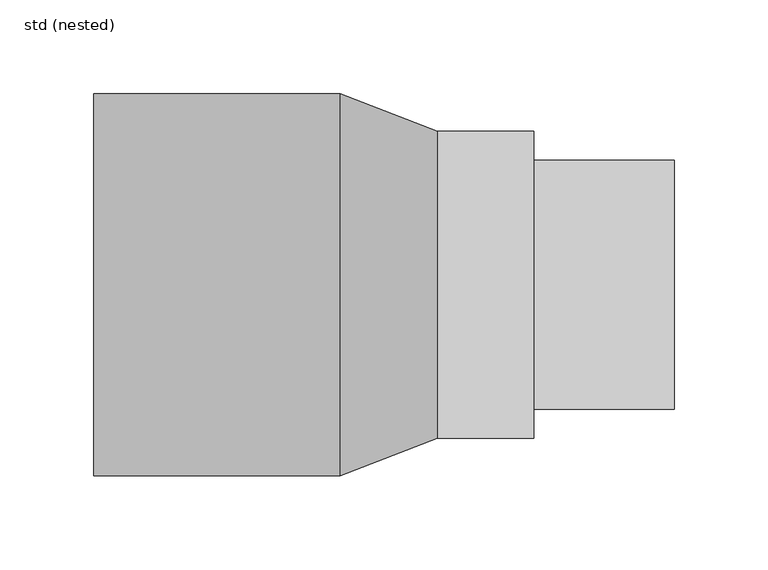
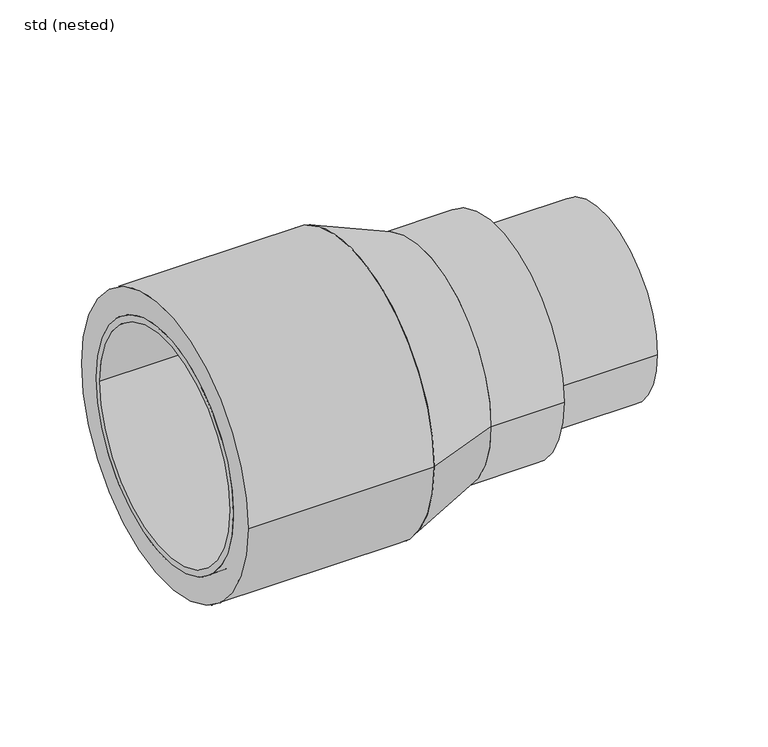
"""IFC4 building model written with IfcOpenShell, lengths in millimetres: pipe fitting geometry, ZZZ_do not use_PIF_ST_WPB_GM-X compound pipe optimiser_ACO : std (nested)."""

from ifc_helpers import new_model, si_unit, point, frame, origin, origin_2d, place, context, project, spatial, polyline, circle_curve, trimmed, segment, composite_curve, outline, extrude, source, transform, mapped, element, save
from ifc_brep_helpers import plane_surface, cylinder_surface, revolved_surface, advanced_brep


def std_nested_1c860d80(model_context):
    return source(origin(), model_context, "Body", "SolidModel", [
        advanced_brep(
        [(-70.5, 90.5, 0.0), (-35.0, 90.5, 0.0), (-35.0, -90.5, 0.0), (-70.5, -90.5, 0.0), (-80.0, -84.0, 0.0), (-80.0, 84.0, 0.0), (-80.0, 79.5, 0.0), (-80.0, -79.5, 0.0), (0.0, -84.0, 0.0), (0.0, 84.0, 0.0), (0.0, -79.5, 0.0), (0.0, 79.5, 0.0), (-35.0, -84.0, 0.0), (-35.0, 84.0, 0.0), (-70.5, 84.0, 0.0), (-70.5, -84.0, 0.0)],
        [
            (0, 1),
            (1, 2, circle_curve(frame((-35.0, 0.0, 0.0), z_axis=(-1.0, 0.0, 0.0), x_axis=(0.0, 1.0, 0.0)), 90.5)),
            (2, 3),
            (3, 0, circle_curve(frame((-70.5, 0.0, 0.0), z_axis=(1.0, 0.0, 0.0), x_axis=(0.0, 1.0, 0.0)), 90.5)),
            (2, 1, circle_curve(frame((-35.0, 0.0, 0.0), z_axis=(-1.0, 0.0, 0.0), x_axis=(0.0, 1.0, 0.0)), 90.5)),
            (0, 3, circle_curve(frame((-70.5, 0.0, 0.0), z_axis=(1.0, 0.0, 0.0), x_axis=(0.0, 1.0, 0.0)), 90.5)),
            (4, 5, circle_curve(frame((-80.0, 0.0, 0.0), z_axis=(-1.0, 0.0, 0.0), x_axis=(0.0, 1.0, 0.0)), 84.0)),
            (5, 4, circle_curve(frame((-80.0, 0.0, 0.0), z_axis=(-1.0, 0.0, 0.0), x_axis=(0.0, 1.0, 0.0)), 84.0)),
            (6, 7, circle_curve(frame((-80.0, 0.0, 0.0), z_axis=(1.0, 0.0, 0.0), x_axis=(0.0, 1.0, 0.0)), 79.5)),
            (7, 6, circle_curve(frame((-80.0, 0.0, 0.0), z_axis=(1.0, 0.0, 0.0), x_axis=(0.0, 1.0, 0.0)), 79.5)),
            (8, 9, circle_curve(frame((0.0, 0.0, 0.0), z_axis=(1.0, 0.0, 0.0), x_axis=(0.0, 1.0, 0.0)), 84.0)),
            (9, 8, circle_curve(frame((0.0, 0.0, 0.0), z_axis=(1.0, 0.0, 0.0), x_axis=(0.0, 1.0, 0.0)), 84.0)),
            (10, 11, circle_curve(frame((0.0, 0.0, 0.0), z_axis=(-1.0, 0.0, 0.0), x_axis=(0.0, 1.0, 0.0)), 79.5)),
            (11, 10, circle_curve(frame((0.0, 0.0, 0.0), z_axis=(-1.0, 0.0, 0.0), x_axis=(0.0, 1.0, 0.0)), 79.5)),
            (8, 12),
            (12, 13, circle_curve(frame((-35.0, 0.0, 0.0), z_axis=(1.0, 0.0, 0.0), x_axis=(0.0, 1.0, 0.0)), 84.0)),
            (13, 9),
            (5, 14),
            (14, 15, circle_curve(frame((-70.5, 0.0, 0.0), z_axis=(-1.0, 0.0, 0.0), x_axis=(0.0, 1.0, 0.0)), 84.0)),
            (15, 4),
            (15, 14, circle_curve(frame((-70.5, 0.0, 0.0), z_axis=(-1.0, 0.0, 0.0), x_axis=(0.0, 1.0, 0.0)), 84.0)),
            (13, 12, circle_curve(frame((-35.0, 0.0, 0.0), z_axis=(1.0, 0.0, 0.0), x_axis=(0.0, 1.0, 0.0)), 84.0)),
            (7, 10),
            (11, 6),
        ],
        [
            cylinder_surface(frame((-35.0, 0.0, 0.0), z_axis=(-1.0, 0.0, 0.0), x_axis=(0.0, 1.0, 0.0)), 90.5),
            plane_surface(frame((-80.0, 84.0, 0.0), z_axis=(-1.0, 0.0, 0.0), x_axis=(0.0, 0.0, 1.0))),
            plane_surface(frame((0.0, 84.0, 0.0), z_axis=(1.0, 0.0, 0.0), x_axis=(0.0, 0.0, -1.0))),
            cylinder_surface(frame((0.0, 0.0, 0.0), z_axis=(-1.0, 0.0, 0.0), x_axis=(0.0, 1.0, 0.0)), 84.0),
            revolved_surface(polyline([(-80.0, 79.5, 0.0), (0.0, 79.5, 0.0)]), (0.0, 0.0, 0.0), (-1.0, 0.0, 0.0)),
            plane_surface(frame((-70.5, 90.5, 0.0), z_axis=(-1.0, 0.0, 0.0), x_axis=(0.0, 0.0, 1.0))),
            plane_surface(frame((-35.0, 90.5, 0.0), z_axis=(1.0, 0.0, 0.0), x_axis=(0.0, 0.0, -1.0))),
        ],
        [
            (0, [[1, 2, 3, 4]]),
            (0, [[-3, 5, -1, 6]]),
            (1, [[7, 8], [9, 10]]),
            (2, [[11, 12], [13, 14]]),
            (3, [[15, 16, 17, -11]]),
            (3, [[18, 19, 20, -8]]),
            (3, [[-20, 21, -18, -7]]),
            (3, [[-17, 22, -15, -12]]),
            (4, [[-10, 23, -14, 24]]),
            (4, [[-13, -23, -9, -24]]),
            (5, [[-6, -4], [-21, -19]]),
            (6, [[-2, -5], [-22, -16]]),
        ],
    ),
        advanced_brep(
        [(103.3333333, 82.0, 0.0), (103.3333333, -82.0, 0.0), (51.6666667, 102.0, 0.0), (51.6666667, -102.0, 0.0)],
        [
            (0, 1, circle_curve(frame((103.3333333, 0.0, 0.0), z_axis=(1.0, 0.0, 0.0), x_axis=(0.0, -1.0, 0.0)), 82.0)),
            (1, 0, circle_curve(frame((103.3333333, 0.0, 0.0), z_axis=(1.0, 0.0, 0.0), x_axis=(0.0, 1.0, 0.0)), 82.0)),
            (2, 3, circle_curve(frame((51.6666667, 0.0, 0.0), z_axis=(-1.0, 0.0, 0.0), x_axis=(0.0, 1.0, 0.0)), 102.0)),
            (3, 2, circle_curve(frame((51.6666667, 0.0, 0.0), z_axis=(-1.0, 0.0, 0.0), x_axis=(0.0, -1.0, 0.0)), 102.0)),
            (2, 0),
            (1, 3),
        ],
        [
            plane_surface(frame((103.3333333, 0.0, 0.0), z_axis=(1.0, 0.0, 0.0), x_axis=(0.0, 0.0, -1.0))),
            plane_surface(frame((51.6666667, 0.0, 0.0), z_axis=(-1.0, 0.0, 0.0), x_axis=(0.0, 0.0, -1.0))),
            revolved_surface(polyline([(103.33333329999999, 82.00000002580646, 0.0), (51.66666670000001, 102.0, 0.0)]), (315.1666667, 0.0, 0.0), (-1.0, 0.0, 0.0)),
            revolved_surface(polyline([(103.33333329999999, -82.00000002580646, 0.0), (51.66666670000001, -102.0, 0.0)]), (315.1666667, 0.0, 0.0), (-1.0, 0.0, 0.0)),
        ],
        [
            (0, [[1, 2]]),
            (1, [[3, 4]]),
            (2, [[5, -2, 6, -3]]),
            (3, [[-6, -1, -5, -4]]),
        ],
    ),
        advanced_brep(
        [(-80.0, 102.0, 0.0), (-80.0, -102.0, 0.0), (-80.0, -84.0, 0.0), (-80.0, 84.0, 0.0), (51.6666667, 102.0, 0.0), (51.6666667, -102.0, 0.0), (0.0, 84.0, 0.0), (0.0, -84.0, 0.0)],
        [
            (0, 1, circle_curve(frame((-80.0, 0.0, 0.0), z_axis=(-1.0, 0.0, 0.0), x_axis=(0.0, -1.0, 0.0)), 102.0)),
            (1, 0, circle_curve(frame((-80.0, 0.0, 0.0), z_axis=(-1.0, 0.0, 0.0), x_axis=(0.0, -1.0, 0.0)), 102.0)),
            (2, 3, circle_curve(frame((-80.0, 0.0, 0.0), z_axis=(1.0, 0.0, 0.0), x_axis=(0.0, -1.0, 0.0)), 84.0)),
            (3, 2, circle_curve(frame((-80.0, 0.0, 0.0), z_axis=(1.0, 0.0, 0.0), x_axis=(0.0, -1.0, 0.0)), 84.0)),
            (4, 5, circle_curve(frame((51.6666667, 0.0, 0.0), z_axis=(1.0, 0.0, 0.0), x_axis=(0.0, -1.0, 0.0)), 102.0)),
            (5, 4, circle_curve(frame((51.6666667, 0.0, 0.0), z_axis=(1.0, 0.0, 0.0), x_axis=(0.0, -1.0, 0.0)), 102.0)),
            (1, 5),
            (4, 0),
            (6, 7, circle_curve(frame((0.0, 0.0, 0.0), z_axis=(-1.0, 0.0, 0.0), x_axis=(0.0, -1.0, 0.0)), 84.0)),
            (7, 6, circle_curve(frame((0.0, 0.0, 0.0), z_axis=(-1.0, 0.0, 0.0), x_axis=(0.0, -1.0, 0.0)), 84.0)),
            (7, 2),
            (3, 6),
        ],
        [
            plane_surface(frame((-80.0, -102.0, 0.0), z_axis=(-1.0, 0.0, 0.0), x_axis=(0.0, 0.0, -1.0))),
            plane_surface(frame((51.6666667, -102.0, 0.0), z_axis=(1.0, 0.0, 0.0), x_axis=(0.0, 0.0, 1.0))),
            cylinder_surface(frame((51.6666667, 0.0, 0.0), z_axis=(-1.0, 0.0, 0.0), x_axis=(0.0, -1.0, 0.0)), 102.0),
            plane_surface(frame((0.0, -84.0, 0.0), z_axis=(-1.0, 0.0, 0.0), x_axis=(0.0, 0.0, 1.0))),
            revolved_surface(polyline([(-80.0, -84.0, 0.0), (0.0, -84.0, 0.0)]), (0.0, 0.0, 0.0), (-1.0, 0.0, 0.0)),
        ],
        [
            (0, [[1, 2], [3, 4]]),
            (1, [[5, 6]]),
            (2, [[7, -5, 8, -2]]),
            (2, [[-8, -6, -7, -1]]),
            (3, [[9, 10]]),
            (4, [[11, -4, 12, -10]]),
            (4, [[-12, -3, -11, -9]]),
        ],
    ),
        extrude(outline(composite_curve([segment(trimmed(circle_curve(origin_2d(), 82.0), [point((-82.0, 0.0))], [point((82.0, 0.0))], False, "CARTESIAN"), True, "CONTINUOUS"), segment(trimmed(circle_curve(origin_2d(), 82.0), [point((82.0, 0.0))], [point((-82.0, 0.0))], False, "CARTESIAN"), True, "CONTINUOUS")], self_intersect=False)), frame((103.3333333, 0.0, 0.0), z_axis=(1.0, 0.0, 0.0), x_axis=(0.0, 1.0, 0.0)), (0.0, 0.0, 1.0), 51.6666667),
        extrude(outline(composite_curve([segment(trimmed(circle_curve(origin_2d(), 66.5), [point((-66.5, 0.0))], [point((66.5, 0.0))], False, "CARTESIAN"), True, "CONTINUOUS"), segment(trimmed(circle_curve(origin_2d(), 66.5), [point((66.5, 0.0))], [point((-66.5, 0.0))], False, "CARTESIAN"), True, "CONTINUOUS")], self_intersect=False)), frame((155.0, 0.0, 0.0), z_axis=(1.0, 0.0, 0.0), x_axis=(0.0, 1.0, 0.0)), (0.0, 0.0, 1.0), 75.0),
    ])


if __name__ == "__main__":
    model = new_model("IFC4")
    model_context = context("Model", 3, world=origin())
    ifc_project = project(units=[si_unit("LENGTHUNIT", "METRE", prefix="MILLI")], contexts=[model_context])
    site = spatial("IfcSite", under=ifc_project)
    building = spatial("IfcBuilding", under=site)
    placement = place(None, origin())
    std_nested_shape = std_nested_1c860d80(model_context)
    element("IfcPipeFitting", 1, ObjectType="ZZZ_do not use_PIF_ST_WPB_GM-X compound pipe optimiser_ACO : std (nested)", at=placement, inside=building, context=model_context, shape_type="MappedRepresentation", body=[
        mapped(std_nested_shape, transform((0.0, 0.0, 0.0), x_axis=(1.0, 0.0, 0.0), y_axis=(0.0, 1.0, 0.0), z_axis=(0.0, 0.0, 1.0))),
    ])
    save(model, "model.ifc")
